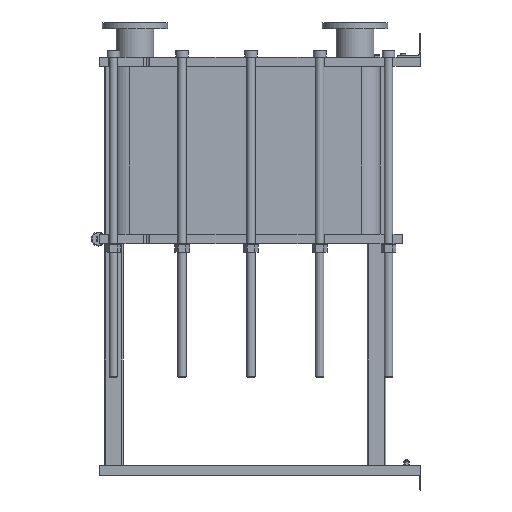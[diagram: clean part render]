
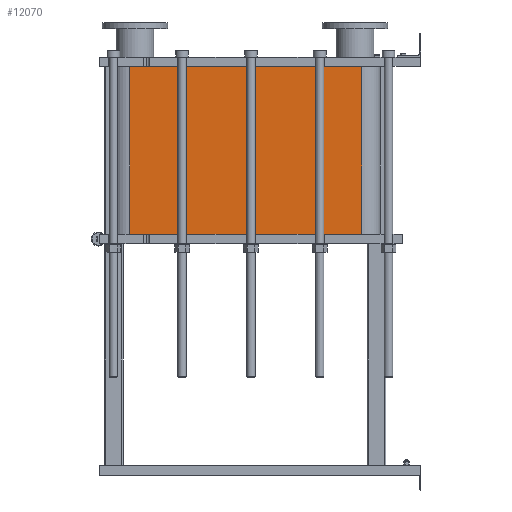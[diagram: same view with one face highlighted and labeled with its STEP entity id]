
A CAD part, left-side view. The second image highlights one B-rep face of the part: STEP entity #12070.
In plain terms, the highlighted planar face has unit normal (-1, 0, 0).
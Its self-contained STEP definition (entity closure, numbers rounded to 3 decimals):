
#1064=LINE('',#21140,#2164);
#1065=LINE('',#21144,#2165);
#1066=LINE('',#21146,#2166);
#1067=LINE('',#21147,#2167);
#2164=VECTOR('',#15790,10.);
#2165=VECTOR('',#15795,10.);
#2166=VECTOR('',#15796,10.);
#2167=VECTOR('',#15797,10.);
#3304=FACE_OUTER_BOUND('',#4091,.T.);
#4091=EDGE_LOOP('',(#9793,#9794,#9795,#9796));
#5677=VERTEX_POINT('',#21137);
#5678=VERTEX_POINT('',#21139);
#5679=VERTEX_POINT('',#21143);
#5680=VERTEX_POINT('',#21145);
#7118=EDGE_CURVE('',#5678,#5677,#1064,.T.);
#7120=EDGE_CURVE('',#5677,#5679,#1065,.T.);
#7121=EDGE_CURVE('',#5680,#5679,#1066,.T.);
#7122=EDGE_CURVE('',#5680,#5678,#1067,.T.);
#9793=ORIENTED_EDGE('',*,*,#7120,.T.);
#9794=ORIENTED_EDGE('',*,*,#7121,.F.);
#9795=ORIENTED_EDGE('',*,*,#7122,.T.);
#9796=ORIENTED_EDGE('',*,*,#7118,.T.);
#11441=PLANE('',#13191);
#12070=ADVANCED_FACE('',(#3304),#11441,.T.);
#13191=AXIS2_PLACEMENT_3D('',#21142,#15793,#15794);
#15790=DIRECTION('',(0.,0.,-1.));
#15793=DIRECTION('center_axis',(-1.,0.,0.));
#15794=DIRECTION('ref_axis',(0.,1.,0.));
#15795=DIRECTION('',(0.,-1.,0.));
#15796=DIRECTION('',(0.,0.,-1.));
#15797=DIRECTION('',(0.,1.,0.));
#21137=CARTESIAN_POINT('',(-248.152,1243.818,-717.6));
#21139=CARTESIAN_POINT('',(-248.152,1243.818,0.));
#21140=CARTESIAN_POINT('',(-248.152,1243.818,0.));
#21142=CARTESIAN_POINT('Origin',(-248.152,251.818,0.));
#21143=CARTESIAN_POINT('',(-248.152,251.818,-717.6));
#21144=CARTESIAN_POINT('',(-248.152,499.818,-717.6));
#21145=CARTESIAN_POINT('',(-248.152,251.818,0.));
#21146=CARTESIAN_POINT('',(-248.152,251.818,0.));
#21147=CARTESIAN_POINT('',(-248.152,251.818,0.));
